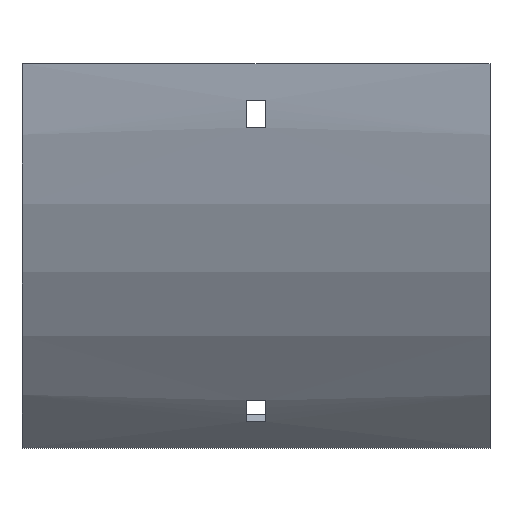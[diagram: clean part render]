
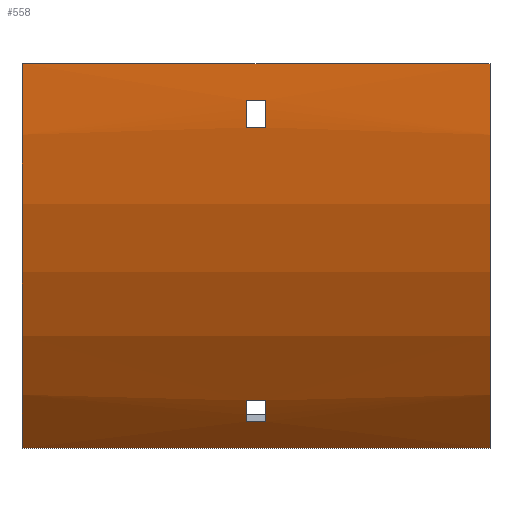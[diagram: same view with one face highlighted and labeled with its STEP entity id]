
A CAD part, front view. The second image highlights one B-rep face of the part: STEP entity #558.
In plain terms, the highlighted cylindrical face has radius 179 mm (diameter 358 mm), a partial arc.
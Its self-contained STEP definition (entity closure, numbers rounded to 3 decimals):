
#7 = ORIENTED_EDGE ( 'NONE', *, *, #308, .T. ) ;
#26 = DIRECTION ( 'NONE',  ( 0., 0., -1. ) ) ;
#30 = AXIS2_PLACEMENT_3D ( 'NONE', #772, #544, #808 ) ;
#41 = ORIENTED_EDGE ( 'NONE', *, *, #1611, .T. ) ;
#51 = DIRECTION ( 'NONE',  ( 1., 0., 0. ) ) ;
#53 = ORIENTED_EDGE ( 'NONE', *, *, #523, .F. ) ;
#64 = VERTEX_POINT ( 'NONE', #402 ) ;
#110 = CARTESIAN_POINT ( 'NONE',  ( 3.25, 100., 0. ) ) ;
#116 = CARTESIAN_POINT ( 'NONE',  ( -77., 100., 0. ) ) ;
#118 = EDGE_CURVE ( 'NONE', #694, #1475, #904, .T. ) ;
#125 = EDGE_LOOP ( 'NONE', ( #560, #1141, #197, #539 ) ) ;
#126 = DIRECTION ( 'NONE',  ( 0., 0., 1. ) ) ;
#147 = EDGE_CURVE ( 'NONE', #207, #1553, #1571, .T. ) ;
#178 = EDGE_CURVE ( 'NONE', #607, #843, #1021, .T. ) ;
#197 = ORIENTED_EDGE ( 'NONE', *, *, #465, .F. ) ;
#207 = VERTEX_POINT ( 'NONE', #1325 ) ;
#230 = ORIENTED_EDGE ( 'NONE', *, *, #1408, .T. ) ;
#246 = AXIS2_PLACEMENT_3D ( 'NONE', #971, #309, #1617 ) ;
#271 = CIRCLE ( 'NONE', #1397, 179. ) ;
#296 = CARTESIAN_POINT ( 'NONE',  ( 77., -78.597, -12. ) ) ;
#308 = EDGE_CURVE ( 'NONE', #836, #795, #1082, .T. ) ;
#309 = DIRECTION ( 'NONE',  ( 1., 0., 0. ) ) ;
#334 = VECTOR ( 'NONE', #1183, 1000. ) ;
#366 = DIRECTION ( 'NONE',  ( 0., 0., 1. ) ) ;
#373 = LINE ( 'NONE', #893, #1561 ) ;
#376 = AXIS2_PLACEMENT_3D ( 'NONE', #110, #627, #366 ) ;
#381 = FACE_OUTER_BOUND ( 'NONE', #1186, .T. ) ;
#402 = CARTESIAN_POINT ( 'NONE',  ( 3.25, -40.547, -110.849 ) ) ;
#422 = ORIENTED_EDGE ( 'NONE', *, *, #1331, .T. ) ;
#454 = CIRCLE ( 'NONE', #376, 179. ) ;
#465 = EDGE_CURVE ( 'NONE', #1578, #64, #454, .T. ) ;
#523 = EDGE_CURVE ( 'NONE', #908, #1367, #373, .T. ) ;
#539 = ORIENTED_EDGE ( 'NONE', *, *, #1467, .F. ) ;
#544 = DIRECTION ( 'NONE',  ( -1., 0., 0. ) ) ;
#548 = AXIS2_PLACEMENT_3D ( 'NONE', #1570, #1558, #126 ) ;
#558 = ADVANCED_FACE ( 'NONE', ( #381, #1171, #1680 ), #672, .T. ) ;
#560 = ORIENTED_EDGE ( 'NONE', *, *, #178, .F. ) ;
#577 = DIRECTION ( 'NONE',  ( 1., 0., 0. ) ) ;
#607 = VERTEX_POINT ( 'NONE', #784 ) ;
#627 = DIRECTION ( 'NONE',  ( -1., 0., 0. ) ) ;
#632 = CARTESIAN_POINT ( 'NONE',  ( 3.25, -34.773, -117.802 ) ) ;
#672 = CYLINDRICAL_SURFACE ( 'NONE', #548, 179. ) ;
#689 = VECTOR ( 'NONE', #51, 1000. ) ;
#694 = VERTEX_POINT ( 'NONE', #962 ) ;
#695 = DIRECTION ( 'NONE',  ( 1., 0., 0. ) ) ;
#759 = CIRCLE ( 'NONE', #246, 179. ) ;
#772 = CARTESIAN_POINT ( 'NONE',  ( -3.25, 100., 0. ) ) ;
#784 = CARTESIAN_POINT ( 'NONE',  ( -3.25, -40.547, -110.849 ) ) ;
#793 = CARTESIAN_POINT ( 'NONE',  ( 77., -77.764, -21. ) ) ;
#795 = VERTEX_POINT ( 'NONE', #1261 ) ;
#808 = DIRECTION ( 'NONE',  ( 0., 0., 1. ) ) ;
#833 = EDGE_CURVE ( 'NONE', #64, #607, #1117, .T. ) ;
#836 = VERTEX_POINT ( 'NONE', #866 ) ;
#843 = VERTEX_POINT ( 'NONE', #1534 ) ;
#866 = CARTESIAN_POINT ( 'NONE',  ( -3.25, -78.597, -12. ) ) ;
#893 = CARTESIAN_POINT ( 'NONE',  ( 77., -26.572, -126.572 ) ) ;
#904 = LINE ( 'NONE', #1332, #1354 ) ;
#908 = VERTEX_POINT ( 'NONE', #1193 ) ;
#925 = DIRECTION ( 'NONE',  ( -1., 0., 0. ) ) ;
#962 = CARTESIAN_POINT ( 'NONE',  ( 77., -79., 0. ) ) ;
#970 = CIRCLE ( 'NONE', #1215, 179. ) ;
#971 = CARTESIAN_POINT ( 'NONE',  ( 3.25, 100., 0. ) ) ;
#973 = EDGE_CURVE ( 'NONE', #694, #908, #271, .T. ) ;
#984 = VECTOR ( 'NONE', #577, 1000. ) ;
#990 = CARTESIAN_POINT ( 'NONE',  ( -3.25, -77.764, -21. ) ) ;
#1021 = CIRCLE ( 'NONE', #1672, 179. ) ;
#1046 = CARTESIAN_POINT ( 'NONE',  ( -3.25, 100., 0. ) ) ;
#1082 = LINE ( 'NONE', #296, #689 ) ;
#1084 = CARTESIAN_POINT ( 'NONE',  ( 77., 100., 0. ) ) ;
#1107 = LINE ( 'NONE', #1218, #984 ) ;
#1117 = LINE ( 'NONE', #1517, #1293 ) ;
#1141 = ORIENTED_EDGE ( 'NONE', *, *, #833, .F. ) ;
#1162 = ORIENTED_EDGE ( 'NONE', *, *, #147, .T. ) ;
#1171 = FACE_BOUND ( 'NONE', #1600, .T. ) ;
#1179 = CARTESIAN_POINT ( 'NONE',  ( -77., -26.572, -126.572 ) ) ;
#1183 = DIRECTION ( 'NONE',  ( -1., 0., 0. ) ) ;
#1186 = EDGE_LOOP ( 'NONE', ( #41, #53, #1474, #1555 ) ) ;
#1193 = CARTESIAN_POINT ( 'NONE',  ( 77., -26.572, -126.572 ) ) ;
#1196 = DIRECTION ( 'NONE',  ( 1., 0., 0. ) ) ;
#1215 = AXIS2_PLACEMENT_3D ( 'NONE', #116, #1414, #1524 ) ;
#1218 = CARTESIAN_POINT ( 'NONE',  ( 77., -34.773, -117.802 ) ) ;
#1261 = CARTESIAN_POINT ( 'NONE',  ( 3.25, -78.597, -12. ) ) ;
#1293 = VECTOR ( 'NONE', #1415, 1000. ) ;
#1325 = CARTESIAN_POINT ( 'NONE',  ( 3.25, -77.764, -21. ) ) ;
#1331 = EDGE_CURVE ( 'NONE', #1553, #836, #1616, .T. ) ;
#1332 = CARTESIAN_POINT ( 'NONE',  ( 77., -79., 0. ) ) ;
#1354 = VECTOR ( 'NONE', #925, 1000. ) ;
#1367 = VERTEX_POINT ( 'NONE', #1179 ) ;
#1397 = AXIS2_PLACEMENT_3D ( 'NONE', #1084, #695, #1483 ) ;
#1408 = EDGE_CURVE ( 'NONE', #795, #207, #759, .T. ) ;
#1414 = DIRECTION ( 'NONE',  ( 1., 0., 0. ) ) ;
#1415 = DIRECTION ( 'NONE',  ( -1., 0., 0. ) ) ;
#1426 = DIRECTION ( 'NONE',  ( -1., 0., 0. ) ) ;
#1467 = EDGE_CURVE ( 'NONE', #843, #1578, #1107, .T. ) ;
#1474 = ORIENTED_EDGE ( 'NONE', *, *, #973, .F. ) ;
#1475 = VERTEX_POINT ( 'NONE', #1486 ) ;
#1483 = DIRECTION ( 'NONE',  ( 0., 0., -1. ) ) ;
#1486 = CARTESIAN_POINT ( 'NONE',  ( -77., -79., 0. ) ) ;
#1517 = CARTESIAN_POINT ( 'NONE',  ( 77., -40.547, -110.849 ) ) ;
#1524 = DIRECTION ( 'NONE',  ( 0., 0., -1. ) ) ;
#1534 = CARTESIAN_POINT ( 'NONE',  ( -3.25, -34.773, -117.802 ) ) ;
#1553 = VERTEX_POINT ( 'NONE', #990 ) ;
#1555 = ORIENTED_EDGE ( 'NONE', *, *, #118, .T. ) ;
#1558 = DIRECTION ( 'NONE',  ( -1., 0., 0. ) ) ;
#1561 = VECTOR ( 'NONE', #1426, 1000. ) ;
#1570 = CARTESIAN_POINT ( 'NONE',  ( 77., 100., 0. ) ) ;
#1571 = LINE ( 'NONE', #793, #334 ) ;
#1578 = VERTEX_POINT ( 'NONE', #632 ) ;
#1600 = EDGE_LOOP ( 'NONE', ( #1162, #422, #7, #230 ) ) ;
#1611 = EDGE_CURVE ( 'NONE', #1475, #1367, #970, .T. ) ;
#1616 = CIRCLE ( 'NONE', #30, 179. ) ;
#1617 = DIRECTION ( 'NONE',  ( 0., 0., -1. ) ) ;
#1672 = AXIS2_PLACEMENT_3D ( 'NONE', #1046, #1196, #26 ) ;
#1680 = FACE_BOUND ( 'NONE', #125, .T. ) ;
